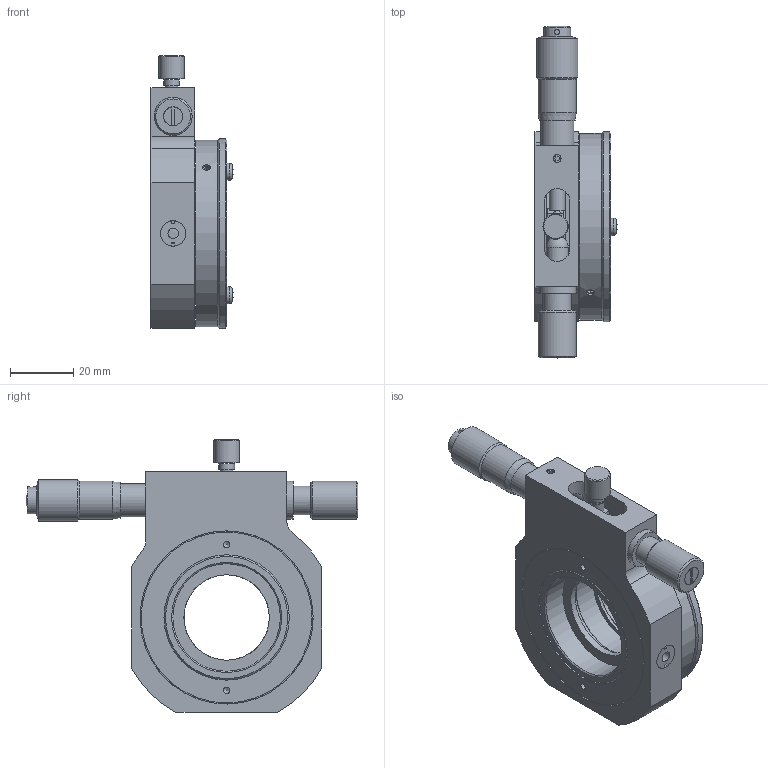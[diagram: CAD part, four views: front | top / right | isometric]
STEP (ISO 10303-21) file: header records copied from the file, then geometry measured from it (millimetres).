
FILE_DESCRIPTION(/* description */ (''),/* implementation_level */ '2;1');
FILE_NAME(/* name */ 'Y:\3DDATA\2_OpticalHard\01_国内製品\2_Holders\SPH\SPH-30-ARS-UU\SPH-30-ARS-UU.stp',/* time_stamp */ '2014-08-11T09:46:27+09:00',/* author */ ('m.kadoya'),/* organization */ (''),/* preprocessor_version */ 'ST-DEVELOPER v15.2',/* originating_system */ 'Autodesk Inventor 2014',/* authorisation */ '');
FILE_SCHEMA (('AUTOMOTIVE_DESIGN { 1 0 10303 214 3 1 1 }'));
Length unit declared in the file: millimetre
Products named in the file (1): SPH30ARS-UU-M02-10001-TS01
Bounding box: 25.91 x 104.87 x 86.2 mm (x, y, z)
Surface area: 27207.2 mm2 (no closed solid volume)
Topology: 0 solids, 34 shells, 157 faces, 468 edges, 323 vertices
Faces by surface type: plane 69, cylinder 66, cone 15, sphere 5, torus 2
Full cylindrical faces by diameter (mm): 1.6 x1, 2 x2, 2.459 x1, 3 x2, 3.302 x2, 3.95 x1, 4 x1, 5 x2, 6 x1, 7 x1, 8 x3, 8.5 x1, 8.917 x1, 9 x1, 9.5 x1, 10.5 x1, 12 x2, 12.1 x1, 13.1 x1, 27 x3, 30 x1, 30.2 x1, 34 x1, 39.6 x1, 48.6 x1, 54 x1, 54.7 x1, 59 x1, 60 x1
Entity records: 5146 total; most frequent: CARTESIAN_POINT 1170, DIRECTION 875, ORIENTED_EDGE 595, EDGE_CURVE 389, AXIS2_PLACEMENT_3D 354, VERTEX_POINT 306, EDGE_LOOP 253, CIRCLE 196
